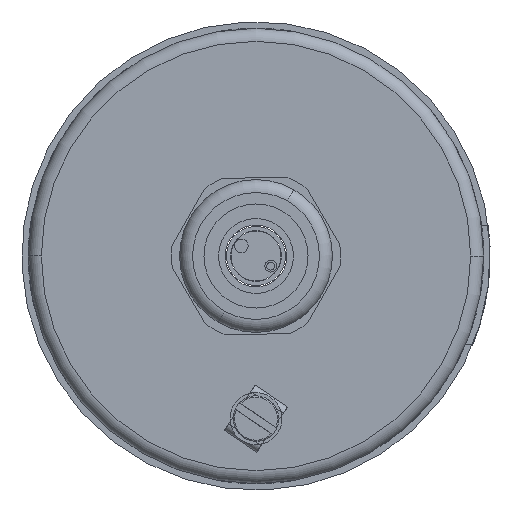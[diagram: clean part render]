
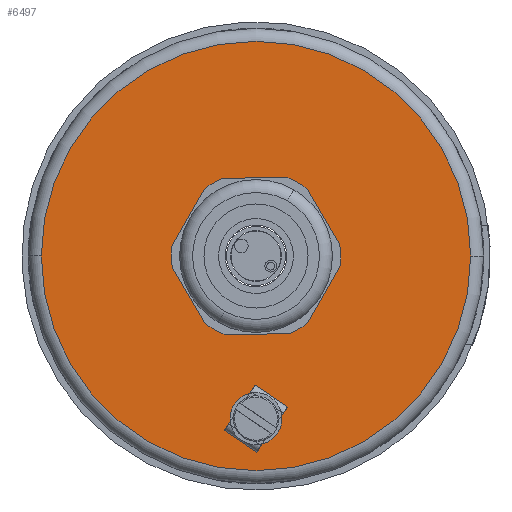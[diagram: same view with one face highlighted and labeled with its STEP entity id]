
A CAD part, left-side view. The second image highlights one B-rep face of the part: STEP entity #6497.
In plain terms, the highlighted planar face has unit normal (-1, 0, 0).
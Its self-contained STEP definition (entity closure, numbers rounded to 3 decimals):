
#219 = DIRECTION ( 'NONE',  ( 0., 1., 0. ) ) ;
#269 = AXIS2_PLACEMENT_3D ( 'NONE', #11683, #2763, #13168 ) ;
#299 = AXIS2_PLACEMENT_3D ( 'NONE', #18045, #9113, #219 ) ;
#544 = DIRECTION ( 'NONE',  ( 0., -1., 0. ) ) ;
#711 = CARTESIAN_POINT ( 'NONE',  ( -70.2, 0., 0. ) ) ;
#758 = VERTEX_POINT ( 'NONE', #4147 ) ;
#927 = ORIENTED_EDGE ( 'NONE', *, *, #5418, .F. ) ;
#1139 = EDGE_LOOP ( 'NONE', ( #13797, #927 ) ) ;
#1523 = ORIENTED_EDGE ( 'NONE', *, *, #3970, .F. ) ;
#1825 = CARTESIAN_POINT ( 'NONE',  ( -70.2, 2.7, -25. ) ) ;
#2046 = VERTEX_POINT ( 'NONE', #1825 ) ;
#2165 = DIRECTION ( 'NONE',  ( 0., 1., 0. ) ) ;
#2182 = AXIS2_PLACEMENT_3D ( 'NONE', #14943, #6007, #16451 ) ;
#2763 = DIRECTION ( 'NONE',  ( -1., 0., 0. ) ) ;
#2871 = EDGE_LOOP ( 'NONE', ( #5904, #1523 ) ) ;
#3148 = FACE_BOUND ( 'NONE', #1139, .T. ) ;
#3866 = ORIENTED_EDGE ( 'NONE', *, *, #11641, .F. ) ;
#3970 = EDGE_CURVE ( 'NONE', #10149, #6011, #18860, .T. ) ;
#4109 = AXIS2_PLACEMENT_3D ( 'NONE', #18369, #9434, #544 ) ;
#4147 = CARTESIAN_POINT ( 'NONE',  ( -70.2, -2.7, -25. ) ) ;
#4205 = EDGE_CURVE ( 'NONE', #758, #2046, #6919, .T. ) ;
#4920 = AXIS2_PLACEMENT_3D ( 'NONE', #711, #11089, #2165 ) ;
#5100 = CARTESIAN_POINT ( 'NONE',  ( -70.2, -33., 0. ) ) ;
#5418 = EDGE_CURVE ( 'NONE', #2046, #758, #9941, .T. ) ;
#5635 = CARTESIAN_POINT ( 'NONE',  ( -70.2, 0., 33. ) ) ;
#5668 = DIRECTION ( 'NONE',  ( -1., 0., 0. ) ) ;
#5904 = ORIENTED_EDGE ( 'NONE', *, *, #6674, .F. ) ;
#6007 = DIRECTION ( 'NONE',  ( -1., 0., 0. ) ) ;
#6011 = VERTEX_POINT ( 'NONE', #10247 ) ;
#6252 = VERTEX_POINT ( 'NONE', #9257 ) ;
#6497 = ADVANCED_FACE ( 'NONE', ( #3148, #11055, #19014 ), #19032, .F. ) ;
#6674 = EDGE_CURVE ( 'NONE', #6011, #10149, #9651, .T. ) ;
#6919 = CIRCLE ( 'NONE', #11536, 2.7 ) ;
#7131 = DIRECTION ( 'NONE',  ( 0., 1., 0. ) ) ;
#8070 = ORIENTED_EDGE ( 'NONE', *, *, #10004, .F. ) ;
#8205 = CARTESIAN_POINT ( 'NONE',  ( -70.2, 8.025, 0. ) ) ;
#9113 = DIRECTION ( 'NONE',  ( 1., 0., 0. ) ) ;
#9257 = CARTESIAN_POINT ( 'NONE',  ( -70.2, -8.025, 0. ) ) ;
#9263 = VERTEX_POINT ( 'NONE', #8205 ) ;
#9434 = DIRECTION ( 'NONE',  ( -1., 0., 0. ) ) ;
#9651 = CIRCLE ( 'NONE', #299, 33. ) ;
#9941 = CIRCLE ( 'NONE', #269, 2.7 ) ;
#10004 = EDGE_CURVE ( 'NONE', #9263, #6252, #17993, .T. ) ;
#10149 = VERTEX_POINT ( 'NONE', #5100 ) ;
#10247 = CARTESIAN_POINT ( 'NONE',  ( -70.2, 33., 0. ) ) ;
#11055 = FACE_OUTER_BOUND ( 'NONE', #2871, .T. ) ;
#11089 = DIRECTION ( 'NONE',  ( 1., 0., 0. ) ) ;
#11536 = AXIS2_PLACEMENT_3D ( 'NONE', #14602, #5668, #16098 ) ;
#11641 = EDGE_CURVE ( 'NONE', #6252, #9263, #13418, .T. ) ;
#11683 = CARTESIAN_POINT ( 'NONE',  ( -70.2, 0., -25. ) ) ;
#13168 = DIRECTION ( 'NONE',  ( 0., -1., 0. ) ) ;
#13418 = CIRCLE ( 'NONE', #4109, 8.025 ) ;
#13797 = ORIENTED_EDGE ( 'NONE', *, *, #4205, .F. ) ;
#14602 = CARTESIAN_POINT ( 'NONE',  ( -70.2, 0., -25. ) ) ;
#14943 = CARTESIAN_POINT ( 'NONE',  ( -70.2, 0., 0. ) ) ;
#16070 = DIRECTION ( 'NONE',  ( 1., 0., 0. ) ) ;
#16098 = DIRECTION ( 'NONE',  ( 0., -1., 0. ) ) ;
#16451 = DIRECTION ( 'NONE',  ( 0., -1., 0. ) ) ;
#16967 = AXIS2_PLACEMENT_3D ( 'NONE', #5635, #16070, #7131 ) ;
#17710 = EDGE_LOOP ( 'NONE', ( #3866, #8070 ) ) ;
#17993 = CIRCLE ( 'NONE', #2182, 8.025 ) ;
#18045 = CARTESIAN_POINT ( 'NONE',  ( -70.2, 0., 0. ) ) ;
#18369 = CARTESIAN_POINT ( 'NONE',  ( -70.2, 0., 0. ) ) ;
#18860 = CIRCLE ( 'NONE', #4920, 33. ) ;
#19014 = FACE_BOUND ( 'NONE', #17710, .T. ) ;
#19032 = PLANE ( 'NONE',  #16967 ) ;
